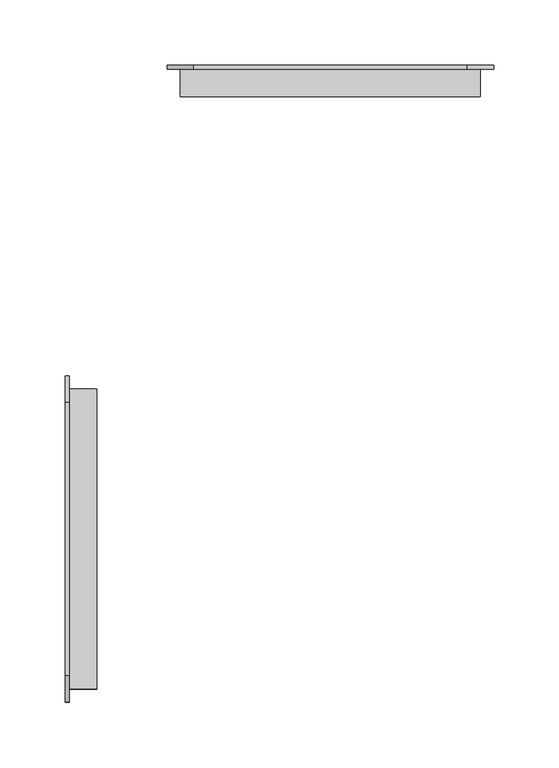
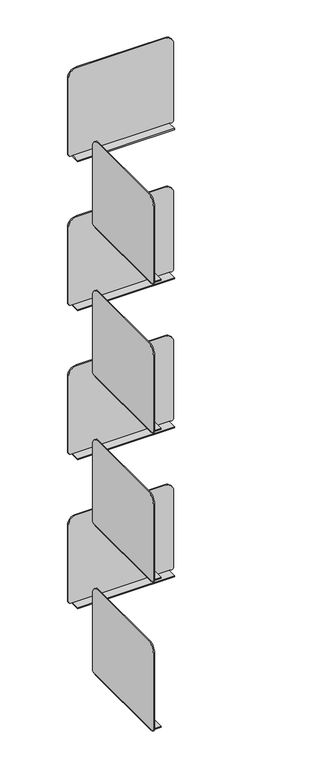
"""IFC4 building model written with IfcOpenShell, lengths in millimetres: furniture geometry, BK Library - Linnea : BK Library - Linnea."""

from ifc_helpers import new_model, si_unit, frame, origin, place, context, project, spatial, circle_curve, source, transform, mapped, element, save
from ifc_brep_helpers import plane_surface, cylinder_surface, advanced_brep


def furniture_8693d7e6(model_context):
    return source(origin(), model_context, "Body", "AdvancedBrep", [
        advanced_brep(
        [(-283.0, 25.0, 1486.75), (-283.0, 45.0, 1466.75), (-283.0, 45.0, 1274.75), (-283.0, 40.0, 1269.75), (-283.0, 35.0, 1269.75), (-283.0, -195.0, 1269.75), (-283.0, -200.0, 1269.75), (-283.0, -205.0, 1274.75), (-283.0, -205.0, 1466.75), (-283.0, -185.0, 1486.75), (-280.0, 25.0, 1486.75), (-280.0, -185.0, 1486.75), (-280.0, -205.0, 1466.75), (-280.0, -205.0, 1274.75), (-280.0, -200.0, 1269.75), (-280.0, -195.0, 1269.75), (-280.0, 35.0, 1269.75), (-280.0, 40.0, 1269.75), (-280.0, 45.0, 1274.75), (-280.0, 45.0, 1466.75), (-280.0, -195.0, 1266.75), (-259.0, -195.0, 1266.75), (-259.0, -195.0, 1269.75), (-259.0, 35.0, 1269.75), (-259.0, 35.0, 1266.75), (-280.0, 35.0, 1266.75)],
        [
            (0, 1, circle_curve(frame((-283.0, 25.0, 1466.75), z_axis=(-1.0, 0.0, 0.0), x_axis=(0.0, 1.0, 0.0)), 20.0)),
            (1, 2),
            (2, 3, circle_curve(frame((-283.0, 40.0, 1274.75), z_axis=(-1.0, 0.0, 0.0), x_axis=(0.0, 1.0, 0.0)), 5.0)),
            (3, 4),
            (4, 5),
            (5, 6),
            (6, 7, circle_curve(frame((-283.0, -200.0, 1274.75), z_axis=(-1.0, 0.0, 0.0), x_axis=(0.0, 1.0, 0.0)), 5.0)),
            (7, 8),
            (8, 9, circle_curve(frame((-283.0, -185.0, 1466.75), z_axis=(-1.0, 0.0, 0.0), x_axis=(0.0, 1.0, 0.0)), 20.0)),
            (9, 0),
            (10, 11),
            (11, 12, circle_curve(frame((-280.0, -185.0, 1466.75), z_axis=(1.0, 0.0, 0.0), x_axis=(0.0, 1.0, 0.0)), 20.0)),
            (12, 13),
            (13, 14, circle_curve(frame((-280.0, -200.0, 1274.75), z_axis=(1.0, 0.0, 0.0), x_axis=(0.0, 1.0, 0.0)), 5.0)),
            (14, 15),
            (15, 16),
            (16, 17),
            (17, 18, circle_curve(frame((-280.0, 40.0, 1274.75), z_axis=(1.0, 0.0, 0.0), x_axis=(0.0, 1.0, 0.0)), 5.0)),
            (18, 19),
            (19, 10, circle_curve(frame((-280.0, 25.0, 1466.75), z_axis=(1.0, 0.0, 0.0), x_axis=(0.0, 1.0, 0.0)), 20.0)),
            (0, 10),
            (19, 1),
            (18, 2),
            (17, 3),
            (16, 4),
            (5, 15),
            (14, 6),
            (13, 7),
            (12, 8),
            (11, 9),
            (5, 20, circle_curve(frame((-280.0, -195.0, 1269.75), z_axis=(0.0, -1.0, 0.0), x_axis=(1.0, 0.0, 0.0)), 3.0)),
            (20, 21),
            (21, 22),
            (22, 15),
            (16, 23),
            (23, 24),
            (24, 25),
            (25, 4, circle_curve(frame((-280.0, 35.0, 1269.75), z_axis=(0.0, 1.0, 0.0), x_axis=(1.0, 0.0, 0.0)), 3.0)),
            (25, 20),
            (24, 21),
            (23, 22),
        ],
        [
            plane_surface(frame((-283.0, 45.0, 1466.75), z_axis=(-1.0, 0.0, 0.0), x_axis=(0.0, 0.0, -1.0))),
            plane_surface(frame((-280.0, 45.0, 1466.75), z_axis=(1.0, 0.0, 0.0), x_axis=(0.0, 0.0, 1.0))),
            cylinder_surface(frame((-280.0, 25.0, 1466.75), z_axis=(-1.0, 0.0, 0.0), x_axis=(0.0, 1.0, 0.0)), 20.0),
            plane_surface(frame((-283.0, 45.0, 1466.75), z_axis=(0.0, 1.0, 0.0), x_axis=(1.0, 0.0, 0.0))),
            cylinder_surface(frame((-280.0, 40.0, 1274.75), z_axis=(-1.0, 0.0, 0.0), x_axis=(0.0, 1.0, 0.0)), 5.0),
            plane_surface(frame((-283.0, 40.0, 1269.75), z_axis=(0.0, 0.0, -1.0), x_axis=(1.0, 0.0, 0.0))),
            plane_surface(frame((-283.0, -195.0, 1269.75), z_axis=(0.0, 0.0, -1.0), x_axis=(1.0, 0.0, 0.0))),
            cylinder_surface(frame((-280.0, -200.0, 1274.75), z_axis=(-1.0, 0.0, 0.0), x_axis=(0.0, 1.0, 0.0)), 5.0),
            plane_surface(frame((-283.0, -205.0, 1274.75), z_axis=(0.0, -1.0, 0.0), x_axis=(1.0, 0.0, 0.0))),
            cylinder_surface(frame((-280.0, -185.0, 1466.75), z_axis=(-1.0, 0.0, 0.0), x_axis=(0.0, 1.0, 0.0)), 20.0),
            plane_surface(frame((-283.0, -185.0, 1486.75), z_axis=(0.0, 0.0, 1.0), x_axis=(1.0, 0.0, 0.0))),
            plane_surface(frame((-280.0, -195.0, 895.5), z_axis=(0.0, -1.0, 0.0), x_axis=(-1.0, 0.0, 0.0))),
            plane_surface(frame((-280.0, 35.0, 895.5), z_axis=(0.0, 1.0, 0.0), x_axis=(1.0, 0.0, 0.0))),
            cylinder_surface(frame((-280.0, 0.0, 1269.75), z_axis=(0.0, -1.0, 0.0), x_axis=(1.0, 0.0, 0.0)), 3.0),
            plane_surface(frame((-280.0, -195.0, 1266.75), z_axis=(0.0, 0.0, -1.0), x_axis=(0.0, 1.0, 0.0))),
            plane_surface(frame((-259.0, -195.0, 1266.75), z_axis=(1.0, 0.0, 0.0), x_axis=(0.0, 1.0, 0.0))),
            plane_surface(frame((-259.0, -195.0, 1269.75), z_axis=(0.0, 0.0, 1.0), x_axis=(0.0, 1.0, 0.0))),
        ],
        [
            (0, [[1, 2, 3, 4, 5, 6, 7, 8, 9, 10]]),
            (1, [[11, 12, 13, 14, 15, 16, 17, 18, 19, 20]]),
            (2, [[-1, 21, -20, 22]]),
            (3, [[-2, -22, -19, 23]]),
            (4, [[-3, -23, -18, 24]]),
            (5, [[-4, -24, -17, 25]]),
            (6, [[-6, 26, -15, 27]]),
            (7, [[-7, -27, -14, 28]]),
            (8, [[-8, -28, -13, 29]]),
            (9, [[-9, -29, -12, 30]]),
            (10, [[-10, -30, -11, -21]]),
            (11, [[31, 32, 33, 34, -26]]),
            (12, [[35, 36, 37, 38, -25]]),
            (13, [[-31, -5, -38, 39]]),
            (14, [[-32, -39, -37, 40]]),
            (15, [[-33, -40, -36, 41]]),
            (16, [[-34, -41, -35, -16]]),
        ],
    ),
        advanced_brep(
        [(-283.0, 25.0, 1112.5), (-283.0, 45.0, 1092.5), (-283.0, 45.0, 900.5), (-283.0, 40.0, 895.5), (-283.0, 35.0, 895.5), (-283.0, -195.0, 895.5), (-283.0, -200.0, 895.5), (-283.0, -205.0, 900.5), (-283.0, -205.0, 1092.5), (-283.0, -185.0, 1112.5), (-280.0, 25.0, 1112.5), (-280.0, -185.0, 1112.5), (-280.0, -205.0, 1092.5), (-280.0, -205.0, 900.5), (-280.0, -200.0, 895.5), (-280.0, -195.0, 895.5), (-280.0, 35.0, 895.5), (-280.0, 40.0, 895.5), (-280.0, 45.0, 900.5), (-280.0, 45.0, 1092.5), (-280.0, -195.0, 892.5), (-259.0, -195.0, 892.5), (-259.0, -195.0, 895.5), (-259.0, 35.0, 895.5), (-259.0, 35.0, 892.5), (-280.0, 35.0, 892.5)],
        [
            (0, 1, circle_curve(frame((-283.0, 25.0, 1092.5), z_axis=(-1.0, 0.0, 0.0), x_axis=(0.0, 1.0, 0.0)), 20.0)),
            (1, 2),
            (2, 3, circle_curve(frame((-283.0, 40.0, 900.5), z_axis=(-1.0, 0.0, 0.0), x_axis=(0.0, 1.0, 0.0)), 5.0)),
            (3, 4),
            (4, 5),
            (5, 6),
            (6, 7, circle_curve(frame((-283.0, -200.0, 900.5), z_axis=(-1.0, 0.0, 0.0), x_axis=(0.0, 1.0, 0.0)), 5.0)),
            (7, 8),
            (8, 9, circle_curve(frame((-283.0, -185.0, 1092.5), z_axis=(-1.0, 0.0, 0.0), x_axis=(0.0, 1.0, 0.0)), 20.0)),
            (9, 0),
            (10, 11),
            (11, 12, circle_curve(frame((-280.0, -185.0, 1092.5), z_axis=(1.0, 0.0, 0.0), x_axis=(0.0, 1.0, 0.0)), 20.0)),
            (12, 13),
            (13, 14, circle_curve(frame((-280.0, -200.0, 900.5), z_axis=(1.0, 0.0, 0.0), x_axis=(0.0, 1.0, 0.0)), 5.0)),
            (14, 15),
            (15, 16),
            (16, 17),
            (17, 18, circle_curve(frame((-280.0, 40.0, 900.5), z_axis=(1.0, 0.0, 0.0), x_axis=(0.0, 1.0, 0.0)), 5.0)),
            (18, 19),
            (19, 10, circle_curve(frame((-280.0, 25.0, 1092.5), z_axis=(1.0, 0.0, 0.0), x_axis=(0.0, 1.0, 0.0)), 20.0)),
            (0, 10),
            (19, 1),
            (18, 2),
            (17, 3),
            (16, 4),
            (5, 15),
            (14, 6),
            (13, 7),
            (12, 8),
            (11, 9),
            (5, 20, circle_curve(frame((-280.0, -195.0, 895.5), z_axis=(0.0, -1.0, 0.0), x_axis=(1.0, 0.0, 0.0)), 3.0)),
            (20, 21),
            (21, 22),
            (22, 15),
            (16, 23),
            (23, 24),
            (24, 25),
            (25, 4, circle_curve(frame((-280.0, 35.0, 895.5), z_axis=(0.0, 1.0, 0.0), x_axis=(1.0, 0.0, 0.0)), 3.0)),
            (25, 20),
            (24, 21),
            (23, 22),
        ],
        [
            plane_surface(frame((-283.0, 45.0, 1466.75), z_axis=(-1.0, 0.0, 0.0), x_axis=(0.0, 0.0, -1.0))),
            plane_surface(frame((-280.0, 45.0, 1466.75), z_axis=(1.0, 0.0, 0.0), x_axis=(0.0, 0.0, 1.0))),
            cylinder_surface(frame((-120.0, 25.0, 1092.5), z_axis=(-1.0, 0.0, 0.0), x_axis=(0.0, 1.0, 0.0)), 20.0),
            plane_surface(frame((-283.0, 45.0, 1092.5), z_axis=(0.0, 1.0, 0.0), x_axis=(1.0, 0.0, 0.0))),
            cylinder_surface(frame((-120.0, 40.0, 900.5), z_axis=(-1.0, 0.0, 0.0), x_axis=(0.0, 1.0, 0.0)), 5.0),
            plane_surface(frame((-283.0, 40.0, 895.5), z_axis=(0.0, 0.0, -1.0), x_axis=(1.0, 0.0, 0.0))),
            plane_surface(frame((-283.0, -195.0, 895.5), z_axis=(0.0, 0.0, -1.0), x_axis=(1.0, 0.0, 0.0))),
            cylinder_surface(frame((-120.0, -200.0, 900.5), z_axis=(-1.0, 0.0, 0.0), x_axis=(0.0, 1.0, 0.0)), 5.0),
            plane_surface(frame((-283.0, -205.0, 900.5), z_axis=(0.0, -1.0, 0.0), x_axis=(1.0, 0.0, 0.0))),
            cylinder_surface(frame((-120.0, -185.0, 1092.5), z_axis=(-1.0, 0.0, 0.0), x_axis=(0.0, 1.0, 0.0)), 20.0),
            plane_surface(frame((-283.0, -185.0, 1112.5), z_axis=(0.0, 0.0, 1.0), x_axis=(1.0, 0.0, 0.0))),
            plane_surface(frame((-280.0, -195.0, 895.5), z_axis=(0.0, -1.0, 0.0), x_axis=(-1.0, 0.0, 0.0))),
            plane_surface(frame((-280.0, 35.0, 895.5), z_axis=(0.0, 1.0, 0.0), x_axis=(1.0, 0.0, 0.0))),
            cylinder_surface(frame((-280.0, 35.0, 895.5), z_axis=(0.0, -1.0, 0.0), x_axis=(1.0, 0.0, 0.0)), 3.0),
            plane_surface(frame((-280.0, -195.0, 892.5), z_axis=(0.0, 0.0, -1.0), x_axis=(0.0, 1.0, 0.0))),
            plane_surface(frame((-259.0, -195.0, 892.5), z_axis=(1.0, 0.0, 0.0), x_axis=(0.0, 1.0, 0.0))),
            plane_surface(frame((-259.0, -195.0, 895.5), z_axis=(0.0, 0.0, 1.0), x_axis=(0.0, 1.0, 0.0))),
        ],
        [
            (0, [[1, 2, 3, 4, 5, 6, 7, 8, 9, 10]]),
            (1, [[11, 12, 13, 14, 15, 16, 17, 18, 19, 20]]),
            (2, [[-1, 21, -20, 22]]),
            (3, [[-2, -22, -19, 23]]),
            (4, [[-3, -23, -18, 24]]),
            (5, [[-4, -24, -17, 25]]),
            (6, [[-6, 26, -15, 27]]),
            (7, [[-7, -27, -14, 28]]),
            (8, [[-8, -28, -13, 29]]),
            (9, [[-9, -29, -12, 30]]),
            (10, [[-10, -30, -11, -21]]),
            (11, [[31, 32, 33, 34, -26]]),
            (12, [[35, 36, 37, 38, -25]]),
            (13, [[-31, -5, -38, 39]]),
            (14, [[-32, -39, -37, 40]]),
            (15, [[-33, -40, -36, 41]]),
            (16, [[-34, -41, -35, -16]]),
        ],
    ),
        advanced_brep(
        [(-283.0, 25.0, 738.25), (-283.0, 45.0, 718.25), (-283.0, 45.0, 526.25), (-283.0, 40.0, 521.25), (-283.0, 35.0, 521.25), (-283.0, -195.0, 521.25), (-283.0, -200.0, 521.25), (-283.0, -205.0, 526.25), (-283.0, -205.0, 718.25), (-283.0, -185.0, 738.25), (-280.0, 25.0, 738.25), (-280.0, -185.0, 738.25), (-280.0, -205.0, 718.25), (-280.0, -205.0, 526.25), (-280.0, -200.0, 521.25), (-280.0, -195.0, 521.25), (-280.0, 35.0, 521.25), (-280.0, 40.0, 521.25), (-280.0, 45.0, 526.25), (-280.0, 45.0, 718.25), (-280.0, -195.0, 518.25), (-259.0, -195.0, 518.25), (-259.0, -195.0, 521.25), (-259.0, 35.0, 521.25), (-259.0, 35.0, 518.25), (-280.0, 35.0, 518.25)],
        [
            (0, 1, circle_curve(frame((-283.0, 25.0, 718.25), z_axis=(-1.0, 0.0, 0.0), x_axis=(0.0, 1.0, 0.0)), 20.0)),
            (1, 2),
            (2, 3, circle_curve(frame((-283.0, 40.0, 526.25), z_axis=(-1.0, 0.0, 0.0), x_axis=(0.0, 1.0, 0.0)), 5.0)),
            (3, 4),
            (4, 5),
            (5, 6),
            (6, 7, circle_curve(frame((-283.0, -200.0, 526.25), z_axis=(-1.0, 0.0, 0.0), x_axis=(0.0, 1.0, 0.0)), 5.0)),
            (7, 8),
            (8, 9, circle_curve(frame((-283.0, -185.0, 718.25), z_axis=(-1.0, 0.0, 0.0), x_axis=(0.0, 1.0, 0.0)), 20.0)),
            (9, 0),
            (10, 11),
            (11, 12, circle_curve(frame((-280.0, -185.0, 718.25), z_axis=(1.0, 0.0, 0.0), x_axis=(0.0, 1.0, 0.0)), 20.0)),
            (12, 13),
            (13, 14, circle_curve(frame((-280.0, -200.0, 526.25), z_axis=(1.0, 0.0, 0.0), x_axis=(0.0, 1.0, 0.0)), 5.0)),
            (14, 15),
            (15, 16),
            (16, 17),
            (17, 18, circle_curve(frame((-280.0, 40.0, 526.25), z_axis=(1.0, 0.0, 0.0), x_axis=(0.0, 1.0, 0.0)), 5.0)),
            (18, 19),
            (19, 10, circle_curve(frame((-280.0, 25.0, 718.25), z_axis=(1.0, 0.0, 0.0), x_axis=(0.0, 1.0, 0.0)), 20.0)),
            (0, 10),
            (19, 1),
            (18, 2),
            (17, 3),
            (16, 4),
            (5, 15),
            (14, 6),
            (13, 7),
            (12, 8),
            (11, 9),
            (5, 20, circle_curve(frame((-280.0, -195.0, 521.25), z_axis=(0.0, -1.0, 0.0), x_axis=(1.0, 0.0, 0.0)), 3.0)),
            (20, 21),
            (21, 22),
            (22, 15),
            (16, 23),
            (23, 24),
            (24, 25),
            (25, 4, circle_curve(frame((-280.0, 35.0, 521.25), z_axis=(0.0, 1.0, 0.0), x_axis=(1.0, 0.0, 0.0)), 3.0)),
            (25, 20),
            (24, 21),
            (23, 22),
        ],
        [
            plane_surface(frame((-283.0, 45.0, 1466.75), z_axis=(-1.0, 0.0, 0.0), x_axis=(0.0, 0.0, -1.0))),
            plane_surface(frame((-280.0, 45.0, 1466.75), z_axis=(1.0, 0.0, 0.0), x_axis=(0.0, 0.0, 1.0))),
            cylinder_surface(frame((-120.0, 25.0, 718.25), z_axis=(-1.0, 0.0, 0.0), x_axis=(0.0, 1.0, 0.0)), 20.0),
            plane_surface(frame((-283.0, 45.0, 718.25), z_axis=(0.0, 1.0, 0.0), x_axis=(1.0, 0.0, 0.0))),
            cylinder_surface(frame((-120.0, 40.0, 526.25), z_axis=(-1.0, 0.0, 0.0), x_axis=(0.0, 1.0, 0.0)), 5.0),
            plane_surface(frame((-283.0, 40.0, 521.25), z_axis=(0.0, 0.0, -1.0), x_axis=(1.0, 0.0, 0.0))),
            plane_surface(frame((-283.0, -195.0, 521.25), z_axis=(0.0, 0.0, -1.0), x_axis=(1.0, 0.0, 0.0))),
            cylinder_surface(frame((-120.0, -200.0, 526.25), z_axis=(-1.0, 0.0, 0.0), x_axis=(0.0, 1.0, 0.0)), 5.0),
            plane_surface(frame((-283.0, -205.0, 526.25), z_axis=(0.0, -1.0, 0.0), x_axis=(1.0, 0.0, 0.0))),
            cylinder_surface(frame((-120.0, -185.0, 718.25), z_axis=(-1.0, 0.0, 0.0), x_axis=(0.0, 1.0, 0.0)), 20.0),
            plane_surface(frame((-283.0, -185.0, 738.25), z_axis=(0.0, 0.0, 1.0), x_axis=(1.0, 0.0, 0.0))),
            plane_surface(frame((-280.0, -195.0, 895.5), z_axis=(0.0, -1.0, 0.0), x_axis=(-1.0, 0.0, 0.0))),
            plane_surface(frame((-280.0, 35.0, 895.5), z_axis=(0.0, 1.0, 0.0), x_axis=(1.0, 0.0, 0.0))),
            cylinder_surface(frame((-280.0, 0.0, 521.25), z_axis=(0.0, -1.0, 0.0), x_axis=(1.0, 0.0, 0.0)), 3.0),
            plane_surface(frame((-280.0, -195.0, 518.25), z_axis=(0.0, 0.0, -1.0), x_axis=(0.0, 1.0, 0.0))),
            plane_surface(frame((-259.0, -195.0, 518.25), z_axis=(1.0, 0.0, 0.0), x_axis=(0.0, 1.0, 0.0))),
            plane_surface(frame((-259.0, -195.0, 521.25), z_axis=(0.0, 0.0, 1.0), x_axis=(0.0, 1.0, 0.0))),
        ],
        [
            (0, [[1, 2, 3, 4, 5, 6, 7, 8, 9, 10]]),
            (1, [[11, 12, 13, 14, 15, 16, 17, 18, 19, 20]]),
            (2, [[-1, 21, -20, 22]]),
            (3, [[-2, -22, -19, 23]]),
            (4, [[-3, -23, -18, 24]]),
            (5, [[-4, -24, -17, 25]]),
            (6, [[-6, 26, -15, 27]]),
            (7, [[-7, -27, -14, 28]]),
            (8, [[-8, -28, -13, 29]]),
            (9, [[-9, -29, -12, 30]]),
            (10, [[-10, -30, -11, -21]]),
            (11, [[31, 32, 33, 34, -26]]),
            (12, [[35, 36, 37, 38, -25]]),
            (13, [[-31, -5, -38, 39]]),
            (14, [[-32, -39, -37, 40]]),
            (15, [[-33, -40, -36, 41]]),
            (16, [[-34, -41, -35, -16]]),
        ],
    ),
        advanced_brep(
        [(-283.0, 25.0, 364.0), (-283.0, 45.0, 344.0), (-283.0, 45.0, 152.0), (-283.0, 40.0, 147.0), (-283.0, 35.0, 147.0), (-283.0, -195.0, 147.0), (-283.0, -200.0, 147.0), (-283.0, -205.0, 152.0), (-283.0, -205.0, 344.0), (-283.0, -185.0, 364.0), (-280.0, 25.0, 364.0), (-280.0, -185.0, 364.0), (-280.0, -205.0, 344.0), (-280.0, -205.0, 152.0), (-280.0, -200.0, 147.0), (-280.0, -195.0, 147.0), (-280.0, 35.0, 147.0), (-280.0, 40.0, 147.0), (-280.0, 45.0, 152.0), (-280.0, 45.0, 344.0), (-280.0, -195.0, 144.0), (-259.0, -195.0, 144.0), (-259.0, -195.0, 147.0), (-259.0, 35.0, 147.0), (-259.0, 35.0, 144.0), (-280.0, 35.0, 144.0)],
        [
            (0, 1, circle_curve(frame((-283.0, 25.0, 344.0), z_axis=(-1.0, 0.0, 0.0), x_axis=(0.0, 1.0, 0.0)), 20.0)),
            (1, 2),
            (2, 3, circle_curve(frame((-283.0, 40.0, 152.0), z_axis=(-1.0, 0.0, 0.0), x_axis=(0.0, 1.0, 0.0)), 5.0)),
            (3, 4),
            (4, 5),
            (5, 6),
            (6, 7, circle_curve(frame((-283.0, -200.0, 152.0), z_axis=(-1.0, 0.0, 0.0), x_axis=(0.0, 1.0, 0.0)), 5.0)),
            (7, 8),
            (8, 9, circle_curve(frame((-283.0, -185.0, 344.0), z_axis=(-1.0, 0.0, 0.0), x_axis=(0.0, 1.0, 0.0)), 20.0)),
            (9, 0),
            (10, 11),
            (11, 12, circle_curve(frame((-280.0, -185.0, 344.0), z_axis=(1.0, 0.0, 0.0), x_axis=(0.0, 1.0, 0.0)), 20.0)),
            (12, 13),
            (13, 14, circle_curve(frame((-280.0, -200.0, 152.0), z_axis=(1.0, 0.0, 0.0), x_axis=(0.0, 1.0, 0.0)), 5.0)),
            (14, 15),
            (15, 16),
            (16, 17),
            (17, 18, circle_curve(frame((-280.0, 40.0, 152.0), z_axis=(1.0, 0.0, 0.0), x_axis=(0.0, 1.0, 0.0)), 5.0)),
            (18, 19),
            (19, 10, circle_curve(frame((-280.0, 25.0, 344.0), z_axis=(1.0, 0.0, 0.0), x_axis=(0.0, 1.0, 0.0)), 20.0)),
            (0, 10),
            (19, 1),
            (18, 2),
            (17, 3),
            (16, 4),
            (5, 15),
            (14, 6),
            (13, 7),
            (12, 8),
            (11, 9),
            (5, 20, circle_curve(frame((-280.0, -195.0, 147.0), z_axis=(0.0, -1.0, 0.0), x_axis=(1.0, 0.0, 0.0)), 3.0)),
            (20, 21),
            (21, 22),
            (22, 15),
            (16, 23),
            (23, 24),
            (24, 25),
            (25, 4, circle_curve(frame((-280.0, 35.0, 147.0), z_axis=(0.0, 1.0, 0.0), x_axis=(1.0, 0.0, 0.0)), 3.0)),
            (25, 20),
            (24, 21),
            (23, 22),
        ],
        [
            plane_surface(frame((-283.0, 45.0, 1466.75), z_axis=(-1.0, 0.0, 0.0), x_axis=(0.0, 0.0, -1.0))),
            plane_surface(frame((-280.0, 45.0, 1466.75), z_axis=(1.0, 0.0, 0.0), x_axis=(0.0, 0.0, 1.0))),
            cylinder_surface(frame((-120.0, 25.0, 344.0), z_axis=(-1.0, 0.0, 0.0), x_axis=(0.0, 1.0, 0.0)), 20.0),
            plane_surface(frame((-283.0, 45.0, 344.0), z_axis=(0.0, 1.0, 0.0), x_axis=(1.0, 0.0, 0.0))),
            cylinder_surface(frame((-120.0, 40.0, 152.0), z_axis=(-1.0, 0.0, 0.0), x_axis=(0.0, 1.0, 0.0)), 5.0),
            plane_surface(frame((-283.0, 40.0, 147.0), z_axis=(0.0, 0.0, -1.0), x_axis=(1.0, 0.0, 0.0))),
            plane_surface(frame((-283.0, -195.0, 147.0), z_axis=(0.0, 0.0, -1.0), x_axis=(1.0, 0.0, 0.0))),
            cylinder_surface(frame((-120.0, -200.0, 152.0), z_axis=(-1.0, 0.0, 0.0), x_axis=(0.0, 1.0, 0.0)), 5.0),
            plane_surface(frame((-283.0, -205.0, 152.0), z_axis=(0.0, -1.0, 0.0), x_axis=(1.0, 0.0, 0.0))),
            cylinder_surface(frame((-120.0, -185.0, 344.0), z_axis=(-1.0, 0.0, 0.0), x_axis=(0.0, 1.0, 0.0)), 20.0),
            plane_surface(frame((-283.0, -185.0, 364.0), z_axis=(0.0, 0.0, 1.0), x_axis=(1.0, 0.0, 0.0))),
            plane_surface(frame((-280.0, -195.0, 895.5), z_axis=(0.0, -1.0, 0.0), x_axis=(-1.0, 0.0, 0.0))),
            plane_surface(frame((-280.0, 35.0, 895.5), z_axis=(0.0, 1.0, 0.0), x_axis=(1.0, 0.0, 0.0))),
            cylinder_surface(frame((-280.0, 0.0, 147.0), z_axis=(0.0, -1.0, 0.0), x_axis=(1.0, 0.0, 0.0)), 3.0),
            plane_surface(frame((-280.0, -195.0, 144.0), z_axis=(0.0, 0.0, -1.0), x_axis=(0.0, 1.0, 0.0))),
            plane_surface(frame((-259.0, -195.0, 144.0), z_axis=(1.0, 0.0, 0.0), x_axis=(0.0, 1.0, 0.0))),
            plane_surface(frame((-259.0, -195.0, 147.0), z_axis=(0.0, 0.0, 1.0), x_axis=(0.0, 1.0, 0.0))),
        ],
        [
            (0, [[1, 2, 3, 4, 5, 6, 7, 8, 9, 10]]),
            (1, [[11, 12, 13, 14, 15, 16, 17, 18, 19, 20]]),
            (2, [[-1, 21, -20, 22]]),
            (3, [[-2, -22, -19, 23]]),
            (4, [[-3, -23, -18, 24]]),
            (5, [[-4, -24, -17, 25]]),
            (6, [[-6, 26, -15, 27]]),
            (7, [[-7, -27, -14, 28]]),
            (8, [[-8, -28, -13, 29]]),
            (9, [[-9, -29, -12, 30]]),
            (10, [[-10, -30, -11, -21]]),
            (11, [[31, 32, 33, 34, -26]]),
            (12, [[35, 36, 37, 38, -25]]),
            (13, [[-31, -5, -38, 39]]),
            (14, [[-32, -39, -37, 40]]),
            (15, [[-33, -40, -36, 41]]),
            (16, [[-34, -41, -35, -16]]),
        ],
    ),
        advanced_brep(
        [(25.0, 283.0, 1486.75), (45.0, 283.0, 1466.75), (45.0, 283.0, 1274.75), (40.0, 283.0, 1269.75), (35.0, 283.0, 1269.75), (-195.0, 283.0, 1269.75), (-200.0, 283.0, 1269.75), (-205.0, 283.0, 1274.75), (-205.0, 283.0, 1466.75), (-185.0, 283.0, 1486.75), (25.0, 280.0, 1486.75), (-185.0, 280.0, 1486.75), (-205.0, 280.0, 1466.75), (-205.0, 280.0, 1274.75), (-200.0, 280.0, 1269.75), (-195.0, 280.0, 1269.75), (35.0, 280.0, 1269.75), (40.0, 280.0, 1269.75), (45.0, 280.0, 1274.75), (45.0, 280.0, 1466.75), (-195.0, 280.0, 1266.75), (-195.0, 259.0, 1266.75), (-195.0, 259.0, 1269.75), (35.0, 259.0, 1269.75), (35.0, 259.0, 1266.75), (35.0, 280.0, 1266.75)],
        [
            (0, 1, circle_curve(frame((25.0, 283.0, 1466.75), z_axis=(0.0, 1.0, 0.0), x_axis=(1.0, 0.0, 0.0)), 20.0)),
            (1, 2),
            (2, 3, circle_curve(frame((40.0, 283.0, 1274.75), z_axis=(0.0, 1.0, 0.0), x_axis=(1.0, 0.0, 0.0)), 5.0)),
            (3, 4),
            (4, 5),
            (5, 6),
            (6, 7, circle_curve(frame((-200.0, 283.0, 1274.75), z_axis=(0.0, 1.0, 0.0), x_axis=(1.0, 0.0, 0.0)), 5.0)),
            (7, 8),
            (8, 9, circle_curve(frame((-185.0, 283.0, 1466.75), z_axis=(0.0, 1.0, 0.0), x_axis=(1.0, 0.0, 0.0)), 20.0)),
            (9, 0),
            (10, 11),
            (11, 12, circle_curve(frame((-185.0, 280.0, 1466.75), z_axis=(0.0, -1.0, 0.0), x_axis=(1.0, 0.0, 0.0)), 20.0)),
            (12, 13),
            (13, 14, circle_curve(frame((-200.0, 280.0, 1274.75), z_axis=(0.0, -1.0, 0.0), x_axis=(1.0, 0.0, 0.0)), 5.0)),
            (14, 15),
            (15, 16),
            (16, 17),
            (17, 18, circle_curve(frame((40.0, 280.0, 1274.75), z_axis=(0.0, -1.0, 0.0), x_axis=(1.0, 0.0, 0.0)), 5.0)),
            (18, 19),
            (19, 10, circle_curve(frame((25.0, 280.0, 1466.75), z_axis=(0.0, -1.0, 0.0), x_axis=(1.0, 0.0, 0.0)), 20.0)),
            (0, 10),
            (19, 1),
            (18, 2),
            (17, 3),
            (16, 4),
            (5, 15),
            (14, 6),
            (13, 7),
            (12, 8),
            (11, 9),
            (5, 20, circle_curve(frame((-195.0, 280.0, 1269.75), z_axis=(-1.0, 0.0, 0.0), x_axis=(0.0, -1.0, 0.0)), 3.0)),
            (20, 21),
            (21, 22),
            (22, 15),
            (16, 23),
            (23, 24),
            (24, 25),
            (25, 4, circle_curve(frame((35.0, 280.0, 1269.75), z_axis=(1.0, 0.0, 0.0), x_axis=(0.0, -1.0, 0.0)), 3.0)),
            (25, 20),
            (24, 21),
            (23, 22),
        ],
        [
            plane_surface(frame((45.0, 283.0, 1466.75), z_axis=(0.0, 1.0, 0.0), x_axis=(0.0, 0.0, -1.0))),
            plane_surface(frame((45.0, 280.0, 1466.75), z_axis=(0.0, -1.0, 0.0), x_axis=(0.0, 0.0, 1.0))),
            cylinder_surface(frame((25.0, 280.0, 1466.75), z_axis=(0.0, 1.0, 0.0), x_axis=(1.0, 0.0, 0.0)), 20.0),
            plane_surface(frame((45.0, 283.0, 1466.75), z_axis=(1.0, 0.0, 0.0), x_axis=(0.0, -1.0, 0.0))),
            cylinder_surface(frame((40.0, 280.0, 1274.75), z_axis=(0.0, 1.0, 0.0), x_axis=(1.0, 0.0, 0.0)), 5.0),
            plane_surface(frame((40.0, 283.0, 1269.75), z_axis=(0.0, 0.0, -1.0), x_axis=(0.0, -1.0, 0.0))),
            plane_surface(frame((-195.0, 283.0, 1269.75), z_axis=(0.0, 0.0, -1.0), x_axis=(0.0, -1.0, 0.0))),
            cylinder_surface(frame((-200.0, 280.0, 1274.75), z_axis=(0.0, 1.0, 0.0), x_axis=(1.0, 0.0, 0.0)), 5.0),
            plane_surface(frame((-205.0, 283.0, 1274.75), z_axis=(-1.0, 0.0, 0.0), x_axis=(0.0, -1.0, 0.0))),
            cylinder_surface(frame((-185.0, 280.0, 1466.75), z_axis=(0.0, 1.0, 0.0), x_axis=(1.0, 0.0, 0.0)), 20.0),
            plane_surface(frame((-185.0, 283.0, 1486.75), z_axis=(0.0, 0.0, 1.0), x_axis=(0.0, -1.0, 0.0))),
            plane_surface(frame((-195.0, 280.0, 895.5), z_axis=(-1.0, 0.0, 0.0), x_axis=(0.0, 1.0, 0.0))),
            plane_surface(frame((35.0, 280.0, 895.5), z_axis=(1.0, 0.0, 0.0), x_axis=(0.0, -1.0, 0.0))),
            cylinder_surface(frame((0.0, 280.0, 1269.75), z_axis=(-1.0, 0.0, 0.0), x_axis=(0.0, -1.0, 0.0)), 3.0),
            plane_surface(frame((-195.0, 280.0, 1266.75), z_axis=(0.0, 0.0, -1.0), x_axis=(1.0, 0.0, 0.0))),
            plane_surface(frame((-195.0, 259.0, 1266.75), z_axis=(0.0, -1.0, 0.0), x_axis=(1.0, 0.0, 0.0))),
            plane_surface(frame((-195.0, 259.0, 1269.75), z_axis=(0.0, 0.0, 1.0), x_axis=(1.0, 0.0, 0.0))),
        ],
        [
            (0, [[1, 2, 3, 4, 5, 6, 7, 8, 9, 10]]),
            (1, [[11, 12, 13, 14, 15, 16, 17, 18, 19, 20]]),
            (2, [[-1, 21, -20, 22]]),
            (3, [[-2, -22, -19, 23]]),
            (4, [[-3, -23, -18, 24]]),
            (5, [[-4, -24, -17, 25]]),
            (6, [[-6, 26, -15, 27]]),
            (7, [[-7, -27, -14, 28]]),
            (8, [[-8, -28, -13, 29]]),
            (9, [[-9, -29, -12, 30]]),
            (10, [[-10, -30, -11, -21]]),
            (11, [[31, 32, 33, 34, -26]]),
            (12, [[35, 36, 37, 38, -25]]),
            (13, [[-31, -5, -38, 39]]),
            (14, [[-32, -39, -37, 40]]),
            (15, [[-33, -40, -36, 41]]),
            (16, [[-34, -41, -35, -16]]),
        ],
    ),
        advanced_brep(
        [(25.0, 283.0, 1112.5), (45.0, 283.0, 1092.5), (45.0, 283.0, 900.5), (40.0, 283.0, 895.5), (35.0, 283.0, 895.5), (-195.0, 283.0, 895.5), (-200.0, 283.0, 895.5), (-205.0, 283.0, 900.5), (-205.0, 283.0, 1092.5), (-185.0, 283.0, 1112.5), (25.0, 280.0, 1112.5), (-185.0, 280.0, 1112.5), (-205.0, 280.0, 1092.5), (-205.0, 280.0, 900.5), (-200.0, 280.0, 895.5), (-195.0, 280.0, 895.5), (35.0, 280.0, 895.5), (40.0, 280.0, 895.5), (45.0, 280.0, 900.5), (45.0, 280.0, 1092.5), (-195.0, 280.0, 892.5), (-195.0, 259.0, 892.5), (-195.0, 259.0, 895.5), (35.0, 259.0, 895.5), (35.0, 259.0, 892.5), (35.0, 280.0, 892.5)],
        [
            (0, 1, circle_curve(frame((25.0, 283.0, 1092.5), z_axis=(0.0, 1.0, 0.0), x_axis=(1.0, 0.0, 0.0)), 20.0)),
            (1, 2),
            (2, 3, circle_curve(frame((40.0, 283.0, 900.5), z_axis=(0.0, 1.0, 0.0), x_axis=(1.0, 0.0, 0.0)), 5.0)),
            (3, 4),
            (4, 5),
            (5, 6),
            (6, 7, circle_curve(frame((-200.0, 283.0, 900.5), z_axis=(0.0, 1.0, 0.0), x_axis=(1.0, 0.0, 0.0)), 5.0)),
            (7, 8),
            (8, 9, circle_curve(frame((-185.0, 283.0, 1092.5), z_axis=(0.0, 1.0, 0.0), x_axis=(1.0, 0.0, 0.0)), 20.0)),
            (9, 0),
            (10, 11),
            (11, 12, circle_curve(frame((-185.0, 280.0, 1092.5), z_axis=(0.0, -1.0, 0.0), x_axis=(1.0, 0.0, 0.0)), 20.0)),
            (12, 13),
            (13, 14, circle_curve(frame((-200.0, 280.0, 900.5), z_axis=(0.0, -1.0, 0.0), x_axis=(1.0, 0.0, 0.0)), 5.0)),
            (14, 15),
            (15, 16),
            (16, 17),
            (17, 18, circle_curve(frame((40.0, 280.0, 900.5), z_axis=(0.0, -1.0, 0.0), x_axis=(1.0, 0.0, 0.0)), 5.0)),
            (18, 19),
            (19, 10, circle_curve(frame((25.0, 280.0, 1092.5), z_axis=(0.0, -1.0, 0.0), x_axis=(1.0, 0.0, 0.0)), 20.0)),
            (0, 10),
            (19, 1),
            (18, 2),
            (17, 3),
            (16, 4),
            (5, 15),
            (14, 6),
            (13, 7),
            (12, 8),
            (11, 9),
            (5, 20, circle_curve(frame((-195.0, 280.0, 895.5), z_axis=(-1.0, 0.0, 0.0), x_axis=(0.0, -1.0, 0.0)), 3.0)),
            (20, 21),
            (21, 22),
            (22, 15),
            (16, 23),
            (23, 24),
            (24, 25),
            (25, 4, circle_curve(frame((35.0, 280.0, 895.5), z_axis=(1.0, 0.0, 0.0), x_axis=(0.0, -1.0, 0.0)), 3.0)),
            (25, 20),
            (24, 21),
            (23, 22),
        ],
        [
            plane_surface(frame((45.0, 283.0, 1466.75), z_axis=(0.0, 1.0, 0.0), x_axis=(0.0, 0.0, -1.0))),
            plane_surface(frame((45.0, 280.0, 1466.75), z_axis=(0.0, -1.0, 0.0), x_axis=(0.0, 0.0, 1.0))),
            cylinder_surface(frame((25.0, 120.0, 1092.5), z_axis=(0.0, 1.0, 0.0), x_axis=(1.0, 0.0, 0.0)), 20.0),
            plane_surface(frame((45.0, 283.0, 1092.5), z_axis=(1.0, 0.0, 0.0), x_axis=(0.0, -1.0, 0.0))),
            cylinder_surface(frame((40.0, 120.0, 900.5), z_axis=(0.0, 1.0, 0.0), x_axis=(1.0, 0.0, 0.0)), 5.0),
            plane_surface(frame((40.0, 283.0, 895.5), z_axis=(0.0, 0.0, -1.0), x_axis=(0.0, -1.0, 0.0))),
            plane_surface(frame((-195.0, 283.0, 895.5), z_axis=(0.0, 0.0, -1.0), x_axis=(0.0, -1.0, 0.0))),
            cylinder_surface(frame((-200.0, 120.0, 900.5), z_axis=(0.0, 1.0, 0.0), x_axis=(1.0, 0.0, 0.0)), 5.0),
            plane_surface(frame((-205.0, 283.0, 900.5), z_axis=(-1.0, 0.0, 0.0), x_axis=(0.0, -1.0, 0.0))),
            cylinder_surface(frame((-185.0, 120.0, 1092.5), z_axis=(0.0, 1.0, 0.0), x_axis=(1.0, 0.0, 0.0)), 20.0),
            plane_surface(frame((-185.0, 283.0, 1112.5), z_axis=(0.0, 0.0, 1.0), x_axis=(0.0, -1.0, 0.0))),
            plane_surface(frame((-195.0, 280.0, 895.5), z_axis=(-1.0, 0.0, 0.0), x_axis=(0.0, 1.0, 0.0))),
            plane_surface(frame((35.0, 280.0, 895.5), z_axis=(1.0, 0.0, 0.0), x_axis=(0.0, -1.0, 0.0))),
            cylinder_surface(frame((35.0, 280.0, 895.5), z_axis=(-1.0, 0.0, 0.0), x_axis=(0.0, -1.0, 0.0)), 3.0),
            plane_surface(frame((-195.0, 280.0, 892.5), z_axis=(0.0, 0.0, -1.0), x_axis=(1.0, 0.0, 0.0))),
            plane_surface(frame((-195.0, 259.0, 892.5), z_axis=(0.0, -1.0, 0.0), x_axis=(1.0, 0.0, 0.0))),
            plane_surface(frame((-195.0, 259.0, 895.5), z_axis=(0.0, 0.0, 1.0), x_axis=(1.0, 0.0, 0.0))),
        ],
        [
            (0, [[1, 2, 3, 4, 5, 6, 7, 8, 9, 10]]),
            (1, [[11, 12, 13, 14, 15, 16, 17, 18, 19, 20]]),
            (2, [[-1, 21, -20, 22]]),
            (3, [[-2, -22, -19, 23]]),
            (4, [[-3, -23, -18, 24]]),
            (5, [[-4, -24, -17, 25]]),
            (6, [[-6, 26, -15, 27]]),
            (7, [[-7, -27, -14, 28]]),
            (8, [[-8, -28, -13, 29]]),
            (9, [[-9, -29, -12, 30]]),
            (10, [[-10, -30, -11, -21]]),
            (11, [[31, 32, 33, 34, -26]]),
            (12, [[35, 36, 37, 38, -25]]),
            (13, [[-31, -5, -38, 39]]),
            (14, [[-32, -39, -37, 40]]),
            (15, [[-33, -40, -36, 41]]),
            (16, [[-34, -41, -35, -16]]),
        ],
    ),
        advanced_brep(
        [(25.0, 283.0, 738.25), (45.0, 283.0, 718.25), (45.0, 283.0, 526.25), (40.0, 283.0, 521.25), (35.0, 283.0, 521.25), (-195.0, 283.0, 521.25), (-200.0, 283.0, 521.25), (-205.0, 283.0, 526.25), (-205.0, 283.0, 718.25), (-185.0, 283.0, 738.25), (25.0, 280.0, 738.25), (-185.0, 280.0, 738.25), (-205.0, 280.0, 718.25), (-205.0, 280.0, 526.25), (-200.0, 280.0, 521.25), (-195.0, 280.0, 521.25), (35.0, 280.0, 521.25), (40.0, 280.0, 521.25), (45.0, 280.0, 526.25), (45.0, 280.0, 718.25), (-195.0, 280.0, 518.25), (-195.0, 259.0, 518.25), (-195.0, 259.0, 521.25), (35.0, 259.0, 521.25), (35.0, 259.0, 518.25), (35.0, 280.0, 518.25)],
        [
            (0, 1, circle_curve(frame((25.0, 283.0, 718.25), z_axis=(0.0, 1.0, 0.0), x_axis=(1.0, 0.0, 0.0)), 20.0)),
            (1, 2),
            (2, 3, circle_curve(frame((40.0, 283.0, 526.25), z_axis=(0.0, 1.0, 0.0), x_axis=(1.0, 0.0, 0.0)), 5.0)),
            (3, 4),
            (4, 5),
            (5, 6),
            (6, 7, circle_curve(frame((-200.0, 283.0, 526.25), z_axis=(0.0, 1.0, 0.0), x_axis=(1.0, 0.0, 0.0)), 5.0)),
            (7, 8),
            (8, 9, circle_curve(frame((-185.0, 283.0, 718.25), z_axis=(0.0, 1.0, 0.0), x_axis=(1.0, 0.0, 0.0)), 20.0)),
            (9, 0),
            (10, 11),
            (11, 12, circle_curve(frame((-185.0, 280.0, 718.25), z_axis=(0.0, -1.0, 0.0), x_axis=(1.0, 0.0, 0.0)), 20.0)),
            (12, 13),
            (13, 14, circle_curve(frame((-200.0, 280.0, 526.25), z_axis=(0.0, -1.0, 0.0), x_axis=(1.0, 0.0, 0.0)), 5.0)),
            (14, 15),
            (15, 16),
            (16, 17),
            (17, 18, circle_curve(frame((40.0, 280.0, 526.25), z_axis=(0.0, -1.0, 0.0), x_axis=(1.0, 0.0, 0.0)), 5.0)),
            (18, 19),
            (19, 10, circle_curve(frame((25.0, 280.0, 718.25), z_axis=(0.0, -1.0, 0.0), x_axis=(1.0, 0.0, 0.0)), 20.0)),
            (0, 10),
            (19, 1),
            (18, 2),
            (17, 3),
            (16, 4),
            (5, 15),
            (14, 6),
            (13, 7),
            (12, 8),
            (11, 9),
            (5, 20, circle_curve(frame((-195.0, 280.0, 521.25), z_axis=(-1.0, 0.0, 0.0), x_axis=(0.0, -1.0, 0.0)), 3.0)),
            (20, 21),
            (21, 22),
            (22, 15),
            (16, 23),
            (23, 24),
            (24, 25),
            (25, 4, circle_curve(frame((35.0, 280.0, 521.25), z_axis=(1.0, 0.0, 0.0), x_axis=(0.0, -1.0, 0.0)), 3.0)),
            (25, 20),
            (24, 21),
            (23, 22),
        ],
        [
            plane_surface(frame((45.0, 283.0, 1466.75), z_axis=(0.0, 1.0, 0.0), x_axis=(0.0, 0.0, -1.0))),
            plane_surface(frame((45.0, 280.0, 1466.75), z_axis=(0.0, -1.0, 0.0), x_axis=(0.0, 0.0, 1.0))),
            cylinder_surface(frame((25.0, 120.0, 718.25), z_axis=(0.0, 1.0, 0.0), x_axis=(1.0, 0.0, 0.0)), 20.0),
            plane_surface(frame((45.0, 283.0, 718.25), z_axis=(1.0, 0.0, 0.0), x_axis=(0.0, -1.0, 0.0))),
            cylinder_surface(frame((40.0, 120.0, 526.25), z_axis=(0.0, 1.0, 0.0), x_axis=(1.0, 0.0, 0.0)), 5.0),
            plane_surface(frame((40.0, 283.0, 521.25), z_axis=(0.0, 0.0, -1.0), x_axis=(0.0, -1.0, 0.0))),
            plane_surface(frame((-195.0, 283.0, 521.25), z_axis=(0.0, 0.0, -1.0), x_axis=(0.0, -1.0, 0.0))),
            cylinder_surface(frame((-200.0, 120.0, 526.25), z_axis=(0.0, 1.0, 0.0), x_axis=(1.0, 0.0, 0.0)), 5.0),
            plane_surface(frame((-205.0, 283.0, 526.25), z_axis=(-1.0, 0.0, 0.0), x_axis=(0.0, -1.0, 0.0))),
            cylinder_surface(frame((-185.0, 120.0, 718.25), z_axis=(0.0, 1.0, 0.0), x_axis=(1.0, 0.0, 0.0)), 20.0),
            plane_surface(frame((-185.0, 283.0, 738.25), z_axis=(0.0, 0.0, 1.0), x_axis=(0.0, -1.0, 0.0))),
            plane_surface(frame((-195.0, 280.0, 895.5), z_axis=(-1.0, 0.0, 0.0), x_axis=(0.0, 1.0, 0.0))),
            plane_surface(frame((35.0, 280.0, 895.5), z_axis=(1.0, 0.0, 0.0), x_axis=(0.0, -1.0, 0.0))),
            cylinder_surface(frame((0.0, 280.0, 521.25), z_axis=(-1.0, 0.0, 0.0), x_axis=(0.0, -1.0, 0.0)), 3.0),
            plane_surface(frame((-195.0, 280.0, 518.25), z_axis=(0.0, 0.0, -1.0), x_axis=(1.0, 0.0, 0.0))),
            plane_surface(frame((-195.0, 259.0, 518.25), z_axis=(0.0, -1.0, 0.0), x_axis=(1.0, 0.0, 0.0))),
            plane_surface(frame((-195.0, 259.0, 521.25), z_axis=(0.0, 0.0, 1.0), x_axis=(1.0, 0.0, 0.0))),
        ],
        [
            (0, [[1, 2, 3, 4, 5, 6, 7, 8, 9, 10]]),
            (1, [[11, 12, 13, 14, 15, 16, 17, 18, 19, 20]]),
            (2, [[-1, 21, -20, 22]]),
            (3, [[-2, -22, -19, 23]]),
            (4, [[-3, -23, -18, 24]]),
            (5, [[-4, -24, -17, 25]]),
            (6, [[-6, 26, -15, 27]]),
            (7, [[-7, -27, -14, 28]]),
            (8, [[-8, -28, -13, 29]]),
            (9, [[-9, -29, -12, 30]]),
            (10, [[-10, -30, -11, -21]]),
            (11, [[31, 32, 33, 34, -26]]),
            (12, [[35, 36, 37, 38, -25]]),
            (13, [[-31, -5, -38, 39]]),
            (14, [[-32, -39, -37, 40]]),
            (15, [[-33, -40, -36, 41]]),
            (16, [[-34, -41, -35, -16]]),
        ],
    ),
        advanced_brep(
        [(25.0, 283.0, 364.0), (45.0, 283.0, 344.0), (45.0, 283.0, 152.0), (40.0, 283.0, 147.0), (35.0, 283.0, 147.0), (-195.0, 283.0, 147.0), (-200.0, 283.0, 147.0), (-205.0, 283.0, 152.0), (-205.0, 283.0, 344.0), (-185.0, 283.0, 364.0), (25.0, 280.0, 364.0), (-185.0, 280.0, 364.0), (-205.0, 280.0, 344.0), (-205.0, 280.0, 152.0), (-200.0, 280.0, 147.0), (-195.0, 280.0, 147.0), (35.0, 280.0, 147.0), (40.0, 280.0, 147.0), (45.0, 280.0, 152.0), (45.0, 280.0, 344.0), (-195.0, 280.0, 144.0), (-195.0, 259.0, 144.0), (-195.0, 259.0, 147.0), (35.0, 259.0, 147.0), (35.0, 259.0, 144.0), (35.0, 280.0, 144.0)],
        [
            (0, 1, circle_curve(frame((25.0, 283.0, 344.0), z_axis=(0.0, 1.0, 0.0), x_axis=(1.0, 0.0, 0.0)), 20.0)),
            (1, 2),
            (2, 3, circle_curve(frame((40.0, 283.0, 152.0), z_axis=(0.0, 1.0, 0.0), x_axis=(1.0, 0.0, 0.0)), 5.0)),
            (3, 4),
            (4, 5),
            (5, 6),
            (6, 7, circle_curve(frame((-200.0, 283.0, 152.0), z_axis=(0.0, 1.0, 0.0), x_axis=(1.0, 0.0, 0.0)), 5.0)),
            (7, 8),
            (8, 9, circle_curve(frame((-185.0, 283.0, 344.0), z_axis=(0.0, 1.0, 0.0), x_axis=(1.0, 0.0, 0.0)), 20.0)),
            (9, 0),
            (10, 11),
            (11, 12, circle_curve(frame((-185.0, 280.0, 344.0), z_axis=(0.0, -1.0, 0.0), x_axis=(1.0, 0.0, 0.0)), 20.0)),
            (12, 13),
            (13, 14, circle_curve(frame((-200.0, 280.0, 152.0), z_axis=(0.0, -1.0, 0.0), x_axis=(1.0, 0.0, 0.0)), 5.0)),
            (14, 15),
            (15, 16),
            (16, 17),
            (17, 18, circle_curve(frame((40.0, 280.0, 152.0), z_axis=(0.0, -1.0, 0.0), x_axis=(1.0, 0.0, 0.0)), 5.0)),
            (18, 19),
            (19, 10, circle_curve(frame((25.0, 280.0, 344.0), z_axis=(0.0, -1.0, 0.0), x_axis=(1.0, 0.0, 0.0)), 20.0)),
            (0, 10),
            (19, 1),
            (18, 2),
            (17, 3),
            (16, 4),
            (5, 15),
            (14, 6),
            (13, 7),
            (12, 8),
            (11, 9),
            (5, 20, circle_curve(frame((-195.0, 280.0, 147.0), z_axis=(-1.0, 0.0, 0.0), x_axis=(0.0, -1.0, 0.0)), 3.0)),
            (20, 21),
            (21, 22),
            (22, 15),
            (16, 23),
            (23, 24),
            (24, 25),
            (25, 4, circle_curve(frame((35.0, 280.0, 147.0), z_axis=(1.0, 0.0, 0.0), x_axis=(0.0, -1.0, 0.0)), 3.0)),
            (25, 20),
            (24, 21),
            (23, 22),
        ],
        [
            plane_surface(frame((45.0, 283.0, 1466.75), z_axis=(0.0, 1.0, 0.0), x_axis=(0.0, 0.0, -1.0))),
            plane_surface(frame((45.0, 280.0, 1466.75), z_axis=(0.0, -1.0, 0.0), x_axis=(0.0, 0.0, 1.0))),
            cylinder_surface(frame((25.0, 120.0, 344.0), z_axis=(0.0, 1.0, 0.0), x_axis=(1.0, 0.0, 0.0)), 20.0),
            plane_surface(frame((45.0, 283.0, 344.0), z_axis=(1.0, 0.0, 0.0), x_axis=(0.0, -1.0, 0.0))),
            cylinder_surface(frame((40.0, 120.0, 152.0), z_axis=(0.0, 1.0, 0.0), x_axis=(1.0, 0.0, 0.0)), 5.0),
            plane_surface(frame((40.0, 283.0, 147.0), z_axis=(0.0, 0.0, -1.0), x_axis=(0.0, -1.0, 0.0))),
            plane_surface(frame((-195.0, 283.0, 147.0), z_axis=(0.0, 0.0, -1.0), x_axis=(0.0, -1.0, 0.0))),
            cylinder_surface(frame((-200.0, 120.0, 152.0), z_axis=(0.0, 1.0, 0.0), x_axis=(1.0, 0.0, 0.0)), 5.0),
            plane_surface(frame((-205.0, 283.0, 152.0), z_axis=(-1.0, 0.0, 0.0), x_axis=(0.0, -1.0, 0.0))),
            cylinder_surface(frame((-185.0, 120.0, 344.0), z_axis=(0.0, 1.0, 0.0), x_axis=(1.0, 0.0, 0.0)), 20.0),
            plane_surface(frame((-185.0, 283.0, 364.0), z_axis=(0.0, 0.0, 1.0), x_axis=(0.0, -1.0, 0.0))),
            plane_surface(frame((-195.0, 280.0, 895.5), z_axis=(-1.0, 0.0, 0.0), x_axis=(0.0, 1.0, 0.0))),
            plane_surface(frame((35.0, 280.0, 895.5), z_axis=(1.0, 0.0, 0.0), x_axis=(0.0, -1.0, 0.0))),
            cylinder_surface(frame((0.0, 280.0, 147.0), z_axis=(-1.0, 0.0, 0.0), x_axis=(0.0, -1.0, 0.0)), 3.0),
            plane_surface(frame((-195.0, 280.0, 144.0), z_axis=(0.0, 0.0, -1.0), x_axis=(1.0, 0.0, 0.0))),
            plane_surface(frame((-195.0, 259.0, 144.0), z_axis=(0.0, -1.0, 0.0), x_axis=(1.0, 0.0, 0.0))),
            plane_surface(frame((-195.0, 259.0, 147.0), z_axis=(0.0, 0.0, 1.0), x_axis=(1.0, 0.0, 0.0))),
        ],
        [
            (0, [[1, 2, 3, 4, 5, 6, 7, 8, 9, 10]]),
            (1, [[11, 12, 13, 14, 15, 16, 17, 18, 19, 20]]),
            (2, [[-1, 21, -20, 22]]),
            (3, [[-2, -22, -19, 23]]),
            (4, [[-3, -23, -18, 24]]),
            (5, [[-4, -24, -17, 25]]),
            (6, [[-6, 26, -15, 27]]),
            (7, [[-7, -27, -14, 28]]),
            (8, [[-8, -28, -13, 29]]),
            (9, [[-9, -29, -12, 30]]),
            (10, [[-10, -30, -11, -21]]),
            (11, [[31, 32, 33, 34, -26]]),
            (12, [[35, 36, 37, 38, -25]]),
            (13, [[-31, -5, -38, 39]]),
            (14, [[-32, -39, -37, 40]]),
            (15, [[-33, -40, -36, 41]]),
            (16, [[-34, -41, -35, -16]]),
        ],
    ),
    ])


if __name__ == "__main__":
    model = new_model("IFC4")
    model_context = context("Model", 3, world=origin())
    ifc_project = project(units=[si_unit("LENGTHUNIT", "METRE", prefix="MILLI")], contexts=[model_context])
    site = spatial("IfcSite", under=ifc_project)
    building = spatial("IfcBuilding", under=site)
    placement = place(None, origin())
    furniture_shape = furniture_8693d7e6(model_context)
    element("IfcFurniture", 1, ObjectType="BK Library - Linnea : BK Library - Linnea", at=placement, inside=building, context=model_context, shape_type="MappedRepresentation", body=[
        mapped(furniture_shape, transform((0.0, 0.0, 0.0), x_axis=(1.0, 0.0, 0.0), y_axis=(0.0, 1.0, 0.0), z_axis=(0.0, 0.0, 1.0))),
    ])
    save(model, "model.ifc")
